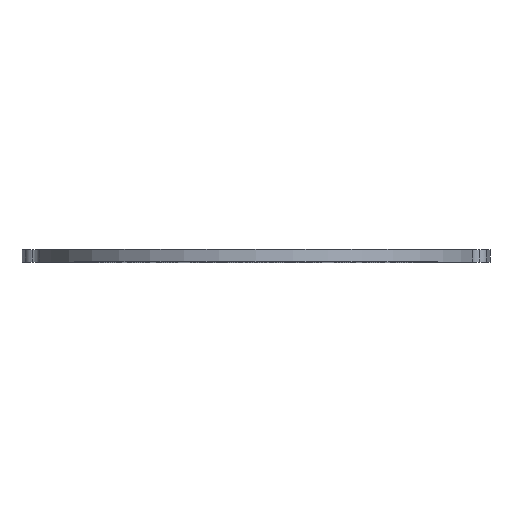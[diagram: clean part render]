
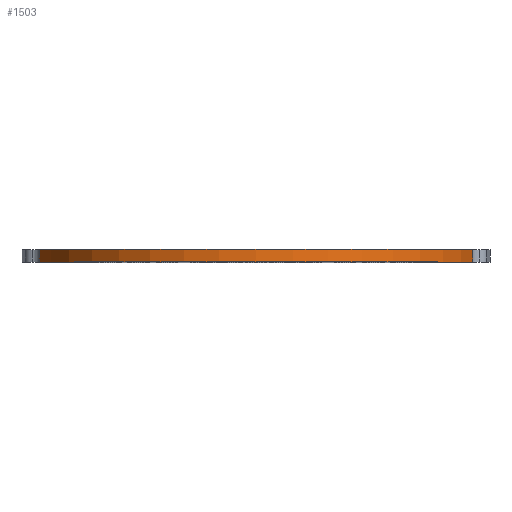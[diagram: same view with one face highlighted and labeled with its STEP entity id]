
A CAD part, top view. The second image highlights one B-rep face of the part: STEP entity #1503.
In plain terms, the highlighted cylindrical face has radius 107.95 mm (diameter 215.9 mm), a partial arc.
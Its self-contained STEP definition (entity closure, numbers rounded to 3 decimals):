
#32 = DIRECTION ( 'NONE',  ( 0., 0., -1. ) ) ;
#216 = DIRECTION ( 'NONE',  ( 0., 1., 0. ) ) ;
#229 = EDGE_CURVE ( 'NONE', #2890, #2413, #3210, .T. ) ;
#292 = DIRECTION ( 'NONE',  ( 0., 1., 0. ) ) ;
#370 = CARTESIAN_POINT ( 'NONE',  ( 0., 6., 0. ) ) ;
#383 = AXIS2_PLACEMENT_3D ( 'NONE', #3237, #216, #1996 ) ;
#398 = VECTOR ( 'NONE', #3150, 1000. ) ;
#442 = ORIENTED_EDGE ( 'NONE', *, *, #1547, .T. ) ;
#573 = DIRECTION ( 'NONE',  ( 0., 1., 0. ) ) ;
#747 = CIRCLE ( 'NONE', #383, 107.95 ) ;
#750 = CARTESIAN_POINT ( 'NONE',  ( -104.514, 0., 27.019 ) ) ;
#862 = CARTESIAN_POINT ( 'NONE',  ( 104.514, 6., 27.019 ) ) ;
#1099 = AXIS2_PLACEMENT_3D ( 'NONE', #370, #573, #2322 ) ;
#1255 = CARTESIAN_POINT ( 'NONE',  ( 104.514, 6., 27.019 ) ) ;
#1353 = VECTOR ( 'NONE', #292, 1000. ) ;
#1434 = CIRCLE ( 'NONE', #1099, 107.95 ) ;
#1503 = ADVANCED_FACE ( 'NONE', ( #2856 ), #1665, .T. ) ;
#1530 = EDGE_LOOP ( 'NONE', ( #2245, #442, #2632, #3133 ) ) ;
#1547 = EDGE_CURVE ( 'NONE', #2459, #3074, #2996, .T. ) ;
#1549 = DIRECTION ( 'NONE',  ( 0., -1., 0. ) ) ;
#1665 = CYLINDRICAL_SURFACE ( 'NONE', #2495, 107.95 ) ;
#1996 = DIRECTION ( 'NONE',  ( 0., 0., -1. ) ) ;
#2142 = CARTESIAN_POINT ( 'NONE',  ( -104.514, 6., 27.019 ) ) ;
#2245 = ORIENTED_EDGE ( 'NONE', *, *, #3071, .T. ) ;
#2322 = DIRECTION ( 'NONE',  ( 0., 0., -1. ) ) ;
#2354 = CARTESIAN_POINT ( 'NONE',  ( -104.514, 6., 27.019 ) ) ;
#2413 = VERTEX_POINT ( 'NONE', #750 ) ;
#2459 = VERTEX_POINT ( 'NONE', #2780 ) ;
#2495 = AXIS2_PLACEMENT_3D ( 'NONE', #2644, #1549, #32 ) ;
#2572 = EDGE_CURVE ( 'NONE', #2890, #3074, #1434, .T. ) ;
#2632 = ORIENTED_EDGE ( 'NONE', *, *, #2572, .F. ) ;
#2644 = CARTESIAN_POINT ( 'NONE',  ( 0., 6., 0. ) ) ;
#2780 = CARTESIAN_POINT ( 'NONE',  ( 104.514, 0., 27.019 ) ) ;
#2856 = FACE_OUTER_BOUND ( 'NONE', #1530, .T. ) ;
#2890 = VERTEX_POINT ( 'NONE', #2354 ) ;
#2996 = LINE ( 'NONE', #862, #1353 ) ;
#3071 = EDGE_CURVE ( 'NONE', #2413, #2459, #747, .T. ) ;
#3074 = VERTEX_POINT ( 'NONE', #1255 ) ;
#3133 = ORIENTED_EDGE ( 'NONE', *, *, #229, .T. ) ;
#3150 = DIRECTION ( 'NONE',  ( 0., -1., 0. ) ) ;
#3210 = LINE ( 'NONE', #2142, #398 ) ;
#3237 = CARTESIAN_POINT ( 'NONE',  ( 0., 0., 0. ) ) ;
